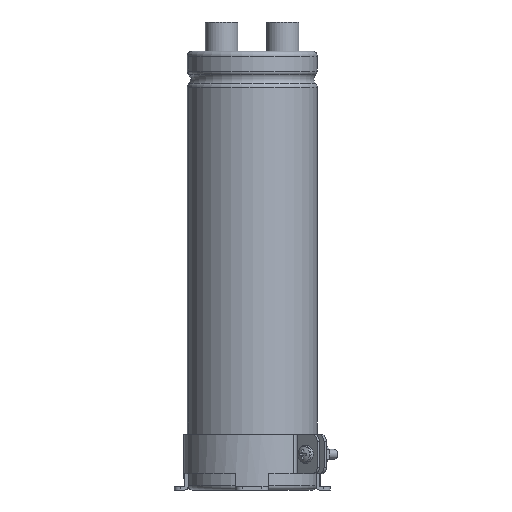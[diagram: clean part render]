
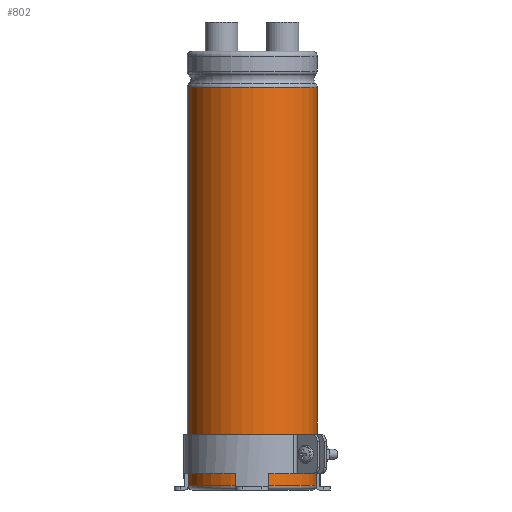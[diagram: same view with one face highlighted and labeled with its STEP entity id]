
A CAD part, left-side view. The second image highlights one B-rep face of the part: STEP entity #802.
In plain terms, the highlighted cylindrical face has radius 20 mm (diameter 40 mm), a partial arc.
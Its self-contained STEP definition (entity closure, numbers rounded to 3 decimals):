
#802=ADVANCED_FACE('',(#1108),#1013,.T.);
#1013=CYLINDRICAL_SURFACE('',#4619,20.);
#1108=FACE_OUTER_BOUND('',#1342,.T.);
#1342=EDGE_LOOP('',(#2357,#2358,#2359,#2360));
#1673=LINE('',#6877,#1877);
#1674=LINE('',#6881,#1878);
#1877=VECTOR('',#5418,1.);
#1878=VECTOR('',#5421,1.);
#2357=ORIENTED_EDGE('',*,*,#3774,.T.);
#2358=ORIENTED_EDGE('',*,*,#3775,.T.);
#2359=ORIENTED_EDGE('',*,*,#3776,.F.);
#2360=ORIENTED_EDGE('',*,*,#3777,.F.);
#3308=VERTEX_POINT('',#6870);
#3310=VERTEX_POINT('',#6874);
#3311=VERTEX_POINT('',#6878);
#3312=VERTEX_POINT('',#6880);
#3774=EDGE_CURVE('',#3308,#3310,#4260,.T.);
#3775=EDGE_CURVE('',#3310,#3311,#1673,.T.);
#3776=EDGE_CURVE('',#3312,#3311,#4261,.T.);
#3777=EDGE_CURVE('',#3308,#3312,#1674,.T.);
#4260=CIRCLE('',#4616,20.);
#4261=CIRCLE('',#4618,20.);
#4616=AXIS2_PLACEMENT_3D('',#6875,#5414,#5415);
#4618=AXIS2_PLACEMENT_3D('',#6879,#5419,#5420);
#4619=AXIS2_PLACEMENT_3D('',#6882,#5422,#5423);
#5414=DIRECTION('',(0.,0.,-1.));
#5415=DIRECTION('',(0.,1.,0.));
#5418=DIRECTION('',(0.,0.,-1.));
#5419=DIRECTION('',(0.,0.,-1.));
#5420=DIRECTION('',(0.,1.,0.));
#5421=DIRECTION('',(0.,0.,-1.));
#5422=DIRECTION('',(0.,0.,-1.));
#5423=DIRECTION('',(0.,1.,0.));
#6870=CARTESIAN_POINT('',(3.987,19.598,123.9));
#6874=CARTESIAN_POINT('',(-3.987,19.598,123.9));
#6875=CARTESIAN_POINT('',(0.,0.,123.9));
#6877=CARTESIAN_POINT('',(-3.987,19.598,123.9));
#6878=CARTESIAN_POINT('',(-3.987,19.598,1.5));
#6879=CARTESIAN_POINT('',(0.,0.,1.5));
#6880=CARTESIAN_POINT('',(3.987,19.598,1.5));
#6881=CARTESIAN_POINT('',(3.987,19.598,123.9));
#6882=CARTESIAN_POINT('',(0.,0.,0.));
